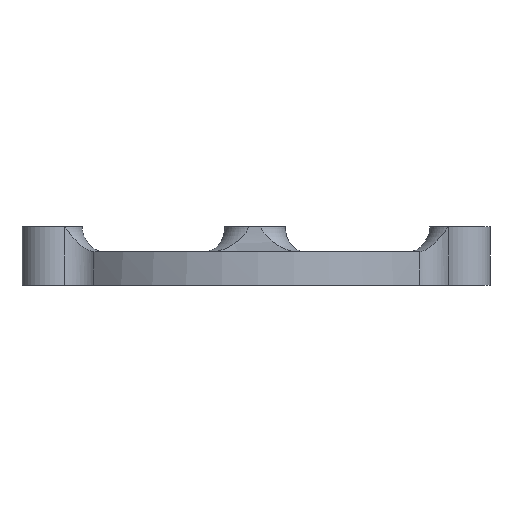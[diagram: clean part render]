
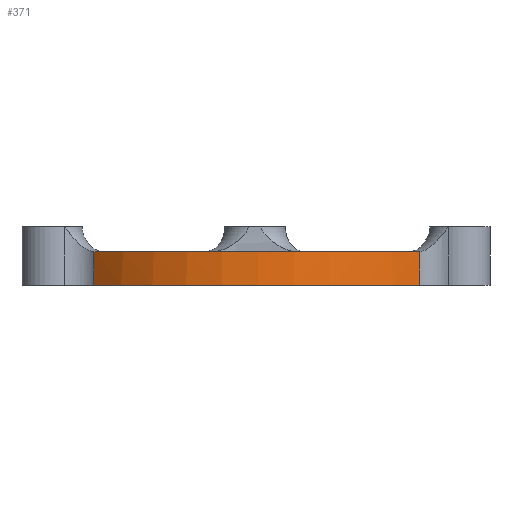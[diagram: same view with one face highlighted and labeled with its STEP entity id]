
A CAD part, left-side view. The second image highlights one B-rep face of the part: STEP entity #371.
In plain terms, the highlighted cylindrical face has radius 26.9 mm (diameter 53.801 mm), a partial arc.
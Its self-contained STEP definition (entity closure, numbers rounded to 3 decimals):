
#127=CYLINDRICAL_SURFACE('',#3721,26.9);
#199=FACE_OUTER_BOUND('',#1001,.T.);
#371=ADVANCED_FACE('',(#199),#127,.T.);
#619=CIRCLE('',#3569,26.9);
#701=CIRCLE('',#3654,26.9);
#751=B_SPLINE_CURVE_WITH_KNOTS('',3,(#5431,#5432,#5433,#5434),
 .UNSPECIFIED.,.F.,.F.,(4,4),(0.,1.),.UNSPECIFIED.);
#752=B_SPLINE_CURVE_WITH_KNOTS('',3,(#5435,#5436,#5437,#5438),
 .UNSPECIFIED.,.F.,.F.,(4,4),(0.,1.),.UNSPECIFIED.);
#1001=EDGE_LOOP('',(#1571,#1572,#1573,#1574,#1575,#1576));
#1571=ORIENTED_EDGE('',*,*,#2685,.F.);
#1572=ORIENTED_EDGE('',*,*,#2751,.T.);
#1573=ORIENTED_EDGE('',*,*,#2752,.T.);
#1574=ORIENTED_EDGE('',*,*,#2584,.T.);
#1575=ORIENTED_EDGE('',*,*,#2753,.T.);
#1576=ORIENTED_EDGE('',*,*,#2754,.T.);
#2248=VERTEX_POINT('',#5021);
#2249=VERTEX_POINT('',#5023);
#2349=VERTEX_POINT('',#5253);
#2350=VERTEX_POINT('',#5255);
#2362=VERTEX_POINT('',#5430);
#2363=VERTEX_POINT('',#5439);
#2584=EDGE_CURVE('',#2249,#2248,#619,.T.);
#2685=EDGE_CURVE('',#2349,#2350,#701,.T.);
#2751=EDGE_CURVE('',#2349,#2362,#3060,.T.);
#2752=EDGE_CURVE('',#2362,#2249,#751,.T.);
#2753=EDGE_CURVE('',#2248,#2363,#752,.T.);
#2754=EDGE_CURVE('',#2363,#2350,#3061,.T.);
#3060=LINE('',#5429,#3313);
#3061=LINE('',#5440,#3314);
#3313=VECTOR('',#4352,1.);
#3314=VECTOR('',#4353,1.);
#3569=AXIS2_PLACEMENT_3D('',#5022,#3990,#3991);
#3654=AXIS2_PLACEMENT_3D('',#5254,#4170,#4171);
#3721=AXIS2_PLACEMENT_3D('',#5441,#4354,#4355);
#3990=DIRECTION('',(0.,0.,-1.));
#3991=DIRECTION('',(-1.,0.,0.));
#4170=DIRECTION('',(0.,0.,-1.));
#4171=DIRECTION('',(1.,0.,0.));
#4352=DIRECTION('',(0.,0.,1.));
#4353=DIRECTION('',(0.,0.,-1.));
#4354=DIRECTION('',(0.,0.,-1.));
#4355=DIRECTION('',(-1.,0.,0.));
#5021=CARTESIAN_POINT('',(-19.243,19.072,-16.3));
#5022=CARTESIAN_POINT('',(-0.1,0.173,-16.3));
#5023=CARTESIAN_POINT('',(-18.447,-19.499,-16.3));
#5253=CARTESIAN_POINT('',(-18.209,-19.719,-20.3));
#5254=CARTESIAN_POINT('',(-0.1,0.173,-20.3));
#5255=CARTESIAN_POINT('',(-19.014,19.301,-20.3));
#5429=CARTESIAN_POINT('',(-18.209,-19.719,29.09));
#5430=CARTESIAN_POINT('',(-18.209,-19.719,-16.283));
#5431=CARTESIAN_POINT('',(-18.209,-19.719,-16.283));
#5432=CARTESIAN_POINT('',(-18.289,-19.647,-16.294));
#5433=CARTESIAN_POINT('',(-18.368,-19.573,-16.3));
#5434=CARTESIAN_POINT('',(-18.447,-19.499,-16.3));
#5435=CARTESIAN_POINT('',(-19.243,19.072,-16.3));
#5436=CARTESIAN_POINT('',(-19.167,19.149,-16.3));
#5437=CARTESIAN_POINT('',(-19.09,19.226,-16.294));
#5438=CARTESIAN_POINT('',(-19.014,19.301,-16.283));
#5439=CARTESIAN_POINT('',(-19.014,19.301,-16.283));
#5440=CARTESIAN_POINT('',(-19.014,19.301,29.09));
#5441=CARTESIAN_POINT('',(-0.1,0.173,29.09));
